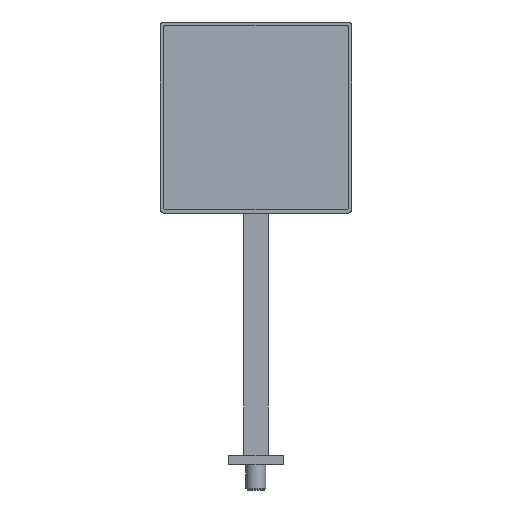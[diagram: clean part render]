
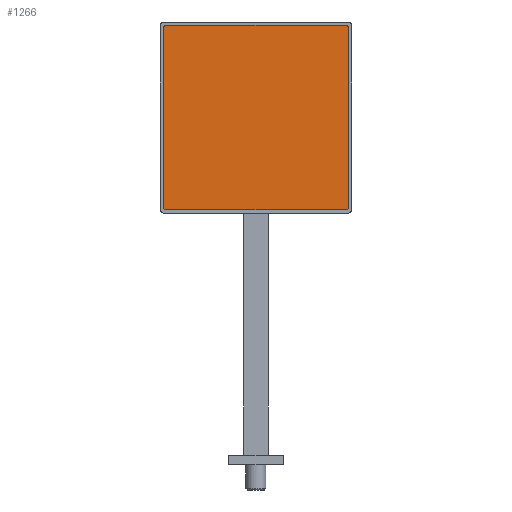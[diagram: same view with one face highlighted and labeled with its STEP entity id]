
A CAD part, front view. The second image highlights one B-rep face of the part: STEP entity #1266.
In plain terms, the highlighted planar face has unit normal (0, -1, 0).
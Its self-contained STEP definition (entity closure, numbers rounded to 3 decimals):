
#11 = EDGE_CURVE ( 'NONE', #105, #501, #965, .T. ) ;
#15 = DIRECTION ( 'NONE',  ( 0., 0., -1. ) ) ;
#60 = ORIENTED_EDGE ( 'NONE', *, *, #535, .T. ) ;
#65 = AXIS2_PLACEMENT_3D ( 'NONE', #1462, #334, #1235 ) ;
#88 = VECTOR ( 'NONE', #15, 1000. ) ;
#99 = VECTOR ( 'NONE', #420, 1000. ) ;
#105 = VERTEX_POINT ( 'NONE', #646 ) ;
#130 = CARTESIAN_POINT ( 'NONE',  ( 84.2, 69.043, 91.859 ) ) ;
#165 = DIRECTION ( 'NONE',  ( 0., 0., 1. ) ) ;
#283 = VECTOR ( 'NONE', #1089, 1000. ) ;
#334 = DIRECTION ( 'NONE',  ( 0., -1., 0. ) ) ;
#352 = DIRECTION ( 'NONE',  ( 0., -1., 0. ) ) ;
#364 = AXIS2_PLACEMENT_3D ( 'NONE', #1167, #716, #966 ) ;
#365 = VECTOR ( 'NONE', #1350, 1000. ) ;
#407 = VERTEX_POINT ( 'NONE', #130 ) ;
#420 = DIRECTION ( 'NONE',  ( 1., 0., 0. ) ) ;
#429 = DIRECTION ( 'NONE',  ( 0., 0., -1. ) ) ;
#462 = CARTESIAN_POINT ( 'NONE',  ( -106.8, 69.043, 280.859 ) ) ;
#471 = CARTESIAN_POINT ( 'NONE',  ( -108.8, 69.043, 280.859 ) ) ;
#475 = VERTEX_POINT ( 'NONE', #1182 ) ;
#482 = CARTESIAN_POINT ( 'NONE',  ( -106.8, 69.043, 282.859 ) ) ;
#501 = VERTEX_POINT ( 'NONE', #860 ) ;
#508 = PLANE ( 'NONE',  #65 ) ;
#510 = CIRCLE ( 'NONE', #1269, 2. ) ;
#535 = EDGE_CURVE ( 'NONE', #501, #407, #812, .T. ) ;
#590 = CARTESIAN_POINT ( 'NONE',  ( -106.8, 69.043, 89.859 ) ) ;
#603 = DIRECTION ( 'NONE',  ( 0., -1., 0. ) ) ;
#618 = ORIENTED_EDGE ( 'NONE', *, *, #862, .T. ) ;
#622 = CIRCLE ( 'NONE', #732, 2. ) ;
#646 = CARTESIAN_POINT ( 'NONE',  ( -106.8, 69.043, 89.859 ) ) ;
#671 = CARTESIAN_POINT ( 'NONE',  ( 84.2, 69.043, 280.859 ) ) ;
#674 = EDGE_CURVE ( 'NONE', #475, #105, #622, .T. ) ;
#706 = CARTESIAN_POINT ( 'NONE',  ( -106.8, 69.043, 282.859 ) ) ;
#715 = EDGE_LOOP ( 'NONE', ( #985, #1426, #60, #1227, #916, #1106, #1221, #618 ) ) ;
#716 = DIRECTION ( 'NONE',  ( 0., -1., 0. ) ) ;
#730 = VERTEX_POINT ( 'NONE', #471 ) ;
#732 = AXIS2_PLACEMENT_3D ( 'NONE', #1203, #603, #1148 ) ;
#764 = LINE ( 'NONE', #997, #88 ) ;
#773 = EDGE_CURVE ( 'NONE', #800, #730, #510, .T. ) ;
#774 = DIRECTION ( 'NONE',  ( 0., -1., 0. ) ) ;
#796 = FACE_OUTER_BOUND ( 'NONE', #715, .T. ) ;
#800 = VERTEX_POINT ( 'NONE', #706 ) ;
#803 = AXIS2_PLACEMENT_3D ( 'NONE', #1395, #774, #165 ) ;
#812 = CIRCLE ( 'NONE', #364, 2. ) ;
#818 = EDGE_CURVE ( 'NONE', #976, #800, #1443, .T. ) ;
#844 = CARTESIAN_POINT ( 'NONE',  ( 82.2, 69.043, 282.859 ) ) ;
#846 = LINE ( 'NONE', #671, #365 ) ;
#860 = CARTESIAN_POINT ( 'NONE',  ( 82.2, 69.043, 89.859 ) ) ;
#862 = EDGE_CURVE ( 'NONE', #730, #475, #764, .T. ) ;
#916 = ORIENTED_EDGE ( 'NONE', *, *, #1474, .T. ) ;
#938 = CARTESIAN_POINT ( 'NONE',  ( 84.2, 69.043, 280.859 ) ) ;
#965 = LINE ( 'NONE', #590, #99 ) ;
#966 = DIRECTION ( 'NONE',  ( 0., 0., -1. ) ) ;
#976 = VERTEX_POINT ( 'NONE', #844 ) ;
#985 = ORIENTED_EDGE ( 'NONE', *, *, #674, .T. ) ;
#997 = CARTESIAN_POINT ( 'NONE',  ( -108.8, 69.043, 280.859 ) ) ;
#1065 = CIRCLE ( 'NONE', #803, 2. ) ;
#1089 = DIRECTION ( 'NONE',  ( -1., 0., 0. ) ) ;
#1106 = ORIENTED_EDGE ( 'NONE', *, *, #818, .T. ) ;
#1148 = DIRECTION ( 'NONE',  ( 0., 0., -1. ) ) ;
#1167 = CARTESIAN_POINT ( 'NONE',  ( 82.2, 69.043, 91.859 ) ) ;
#1182 = CARTESIAN_POINT ( 'NONE',  ( -108.8, 69.043, 91.859 ) ) ;
#1203 = CARTESIAN_POINT ( 'NONE',  ( -106.8, 69.043, 91.859 ) ) ;
#1221 = ORIENTED_EDGE ( 'NONE', *, *, #773, .T. ) ;
#1227 = ORIENTED_EDGE ( 'NONE', *, *, #1485, .T. ) ;
#1235 = DIRECTION ( 'NONE',  ( 0., 0., -1. ) ) ;
#1266 = ADVANCED_FACE ( 'NONE', ( #796 ), #508, .T. ) ;
#1269 = AXIS2_PLACEMENT_3D ( 'NONE', #462, #352, #429 ) ;
#1350 = DIRECTION ( 'NONE',  ( 0., 0., 1. ) ) ;
#1395 = CARTESIAN_POINT ( 'NONE',  ( 82.2, 69.043, 280.859 ) ) ;
#1426 = ORIENTED_EDGE ( 'NONE', *, *, #11, .T. ) ;
#1438 = VERTEX_POINT ( 'NONE', #938 ) ;
#1443 = LINE ( 'NONE', #482, #283 ) ;
#1462 = CARTESIAN_POINT ( 'NONE',  ( -106.8, 69.043, 91.859 ) ) ;
#1474 = EDGE_CURVE ( 'NONE', #1438, #976, #1065, .T. ) ;
#1485 = EDGE_CURVE ( 'NONE', #407, #1438, #846, .T. ) ;
